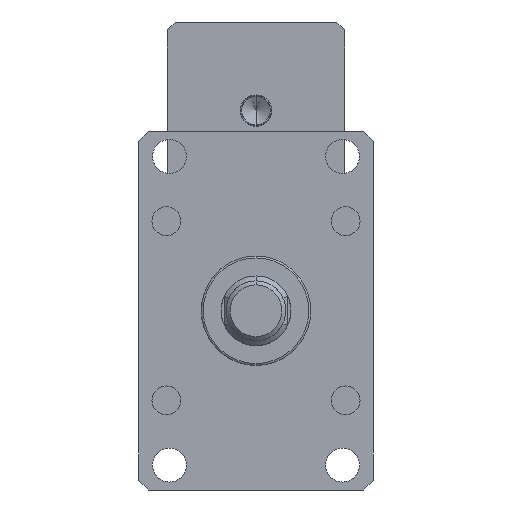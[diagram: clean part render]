
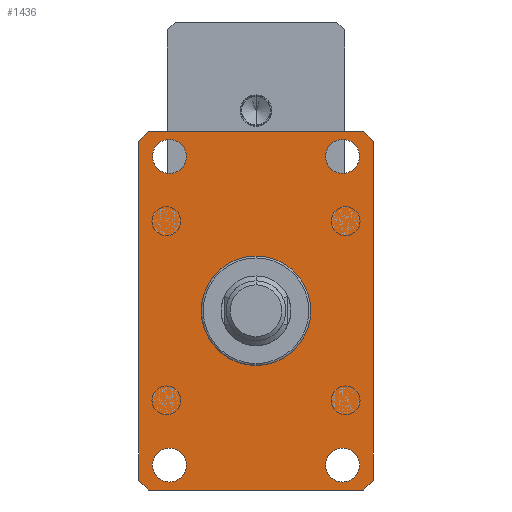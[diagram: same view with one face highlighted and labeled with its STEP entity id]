
A CAD part, front view. The second image highlights one B-rep face of the part: STEP entity #1436.
In plain terms, the highlighted planar face has unit normal (0, -1, 0).
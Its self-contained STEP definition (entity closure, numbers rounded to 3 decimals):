
#88 = ORIENTED_EDGE ( 'NONE', *, *, #3597, .T. ) ;
#163 = DIRECTION ( 'NONE',  ( 0., 0., -1. ) ) ;
#231 = ORIENTED_EDGE ( 'NONE', *, *, #11035, .T. ) ;
#253 = VERTEX_POINT ( 'NONE', #2190 ) ;
#291 = VERTEX_POINT ( 'NONE', #467 ) ;
#299 = DIRECTION ( 'NONE',  ( 0., 0., 1. ) ) ;
#450 = EDGE_CURVE ( 'NONE', #6339, #1347, #3240, .T. ) ;
#467 = CARTESIAN_POINT ( 'NONE',  ( -54., -55., 90. ) ) ;
#547 = VERTEX_POINT ( 'NONE', #4670 ) ;
#963 = EDGE_CURVE ( 'NONE', #7850, #12514, #2601, .T. ) ;
#1062 = ORIENTED_EDGE ( 'NONE', *, *, #11374, .F. ) ;
#1152 = VERTEX_POINT ( 'NONE', #2184 ) ;
#1244 = EDGE_CURVE ( 'NONE', #11001, #11642, #11638, .T. ) ;
#1309 = ORIENTED_EDGE ( 'NONE', *, *, #9554, .T. ) ;
#1347 = VERTEX_POINT ( 'NONE', #12564 ) ;
#1436 = ADVANCED_FACE ( 'NONE', ( #2259, #5228, #7796, #12397, #9767 ), #8162, .F. ) ;
#1441 = EDGE_CURVE ( 'NONE', #9398, #8172, #12086, .T. ) ;
#1711 = AXIS2_PLACEMENT_3D ( 'NONE', #5298, #12116, #6243 ) ;
#1870 = CARTESIAN_POINT ( 'NONE',  ( 43.5, -55., 69. ) ) ;
#1936 = AXIS2_PLACEMENT_3D ( 'NONE', #11147, #5334, #12155 ) ;
#1957 = CARTESIAN_POINT ( 'NONE',  ( -59., -55., 85. ) ) ;
#2022 = CARTESIAN_POINT ( 'NONE',  ( 43.5, -55., -86. ) ) ;
#2075 = EDGE_CURVE ( 'NONE', #10154, #291, #11457, .T. ) ;
#2184 = CARTESIAN_POINT ( 'NONE',  ( -59., -55., 85. ) ) ;
#2190 = CARTESIAN_POINT ( 'NONE',  ( 43.5, -55., 86. ) ) ;
#2259 = FACE_BOUND ( 'NONE', #2907, .T. ) ;
#2282 = CARTESIAN_POINT ( 'NONE',  ( 59., -55., -90. ) ) ;
#2303 = CARTESIAN_POINT ( 'NONE',  ( 59., -55., 85. ) ) ;
#2342 = ORIENTED_EDGE ( 'NONE', *, *, #1244, .T. ) ;
#2601 = CIRCLE ( 'NONE', #10473, 8.5 ) ;
#2619 = DIRECTION ( 'NONE',  ( 1., 0., 0. ) ) ;
#2706 = EDGE_CURVE ( 'NONE', #5004, #7093, #6702, .T. ) ;
#2907 = EDGE_LOOP ( 'NONE', ( #1062, #3637 ) ) ;
#2946 = CARTESIAN_POINT ( 'NONE',  ( 54., -55., 90. ) ) ;
#2948 = DIRECTION ( 'NONE',  ( 0., 0., -1. ) ) ;
#3010 = AXIS2_PLACEMENT_3D ( 'NONE', #10078, #4259, #11063 ) ;
#3025 = CARTESIAN_POINT ( 'NONE',  ( 43.5, -55., 77.5 ) ) ;
#3192 = DIRECTION ( 'NONE',  ( 0.707, 0., 0.707 ) ) ;
#3240 = CIRCLE ( 'NONE', #10963, 8.5 ) ;
#3284 = EDGE_LOOP ( 'NONE', ( #2342, #11495, #9940, #12376, #9163, #231, #7406, #88 ) ) ;
#3353 = ORIENTED_EDGE ( 'NONE', *, *, #11828, .F. ) ;
#3589 = CARTESIAN_POINT ( 'NONE',  ( -54., -55., -90. ) ) ;
#3597 = EDGE_CURVE ( 'NONE', #547, #11001, #8352, .T. ) ;
#3637 = ORIENTED_EDGE ( 'NONE', *, *, #963, .F. ) ;
#3724 = EDGE_CURVE ( 'NONE', #8172, #10154, #9114, .T. ) ;
#3904 = CIRCLE ( 'NONE', #10662, 8.5 ) ;
#4056 = DIRECTION ( 'NONE',  ( 0., 0., -1. ) ) ;
#4132 = CARTESIAN_POINT ( 'NONE',  ( 43.5, -55., 77.5 ) ) ;
#4259 = DIRECTION ( 'NONE',  ( 0., -1., 0. ) ) ;
#4308 = DIRECTION ( 'NONE',  ( 0., 0., 1. ) ) ;
#4417 = DIRECTION ( 'NONE',  ( 0., 1., 0. ) ) ;
#4560 = ORIENTED_EDGE ( 'NONE', *, *, #450, .T. ) ;
#4628 = VECTOR ( 'NONE', #299, 1000. ) ;
#4659 = EDGE_LOOP ( 'NONE', ( #3353, #6316 ) ) ;
#4670 = CARTESIAN_POINT ( 'NONE',  ( -59., -55., -85. ) ) ;
#4894 = VERTEX_POINT ( 'NONE', #1870 ) ;
#4934 = EDGE_CURVE ( 'NONE', #4894, #253, #7234, .T. ) ;
#4937 = CARTESIAN_POINT ( 'NONE',  ( 54., -55., -90. ) ) ;
#4972 = CIRCLE ( 'NONE', #3010, 8.5 ) ;
#5004 = VERTEX_POINT ( 'NONE', #8947 ) ;
#5112 = DIRECTION ( 'NONE',  ( 0., 0., -1. ) ) ;
#5168 = VECTOR ( 'NONE', #8994, 1000. ) ;
#5228 = FACE_BOUND ( 'NONE', #7733, .T. ) ;
#5298 = CARTESIAN_POINT ( 'NONE',  ( -43.5, -55., -77.5 ) ) ;
#5334 = DIRECTION ( 'NONE',  ( 0., 1., 0. ) ) ;
#5427 = LINE ( 'NONE', #8249, #10290 ) ;
#5522 = CARTESIAN_POINT ( 'NONE',  ( 43.5, -55., -77.5 ) ) ;
#5713 = AXIS2_PLACEMENT_3D ( 'NONE', #3025, #9878, #4056 ) ;
#5986 = CARTESIAN_POINT ( 'NONE',  ( 59., -55., -85. ) ) ;
#6113 = DIRECTION ( 'NONE',  ( 0., -1., 0. ) ) ;
#6239 = CARTESIAN_POINT ( 'NONE',  ( 59., -55., 85. ) ) ;
#6243 = DIRECTION ( 'NONE',  ( 0., 0., 1. ) ) ;
#6244 = DIRECTION ( 'NONE',  ( -0.707, 0., 0.707 ) ) ;
#6316 = ORIENTED_EDGE ( 'NONE', *, *, #4934, .F. ) ;
#6339 = VERTEX_POINT ( 'NONE', #2022 ) ;
#6490 = DIRECTION ( 'NONE',  ( 0., 0., 1. ) ) ;
#6518 = VECTOR ( 'NONE', #6244, 1000. ) ;
#6702 = CIRCLE ( 'NONE', #1936, 8.5 ) ;
#7093 = VERTEX_POINT ( 'NONE', #12023 ) ;
#7141 = AXIS2_PLACEMENT_3D ( 'NONE', #4132, #10947, #5112 ) ;
#7234 = CIRCLE ( 'NONE', #5713, 8.5 ) ;
#7252 = ORIENTED_EDGE ( 'NONE', *, *, #9974, .T. ) ;
#7390 = VECTOR ( 'NONE', #2948, 1000. ) ;
#7406 = ORIENTED_EDGE ( 'NONE', *, *, #11699, .T. ) ;
#7548 = VECTOR ( 'NONE', #3192, 1000. ) ;
#7689 = LINE ( 'NONE', #1957, #7390 ) ;
#7733 = EDGE_LOOP ( 'NONE', ( #7252, #4560 ) ) ;
#7796 = FACE_BOUND ( 'NONE', #11966, .T. ) ;
#7850 = VERTEX_POINT ( 'NONE', #10456 ) ;
#7997 = CARTESIAN_POINT ( 'NONE',  ( -59., -55., -85. ) ) ;
#8162 = PLANE ( 'NONE',  #8679 ) ;
#8171 = CARTESIAN_POINT ( 'NONE',  ( -54., -55., -90. ) ) ;
#8172 = VERTEX_POINT ( 'NONE', #2303 ) ;
#8219 = CARTESIAN_POINT ( 'NONE',  ( -54., -55., 90. ) ) ;
#8249 = CARTESIAN_POINT ( 'NONE',  ( -59., -55., 85. ) ) ;
#8352 = LINE ( 'NONE', #7997, #5168 ) ;
#8546 = VECTOR ( 'NONE', #9206, 1000. ) ;
#8679 = AXIS2_PLACEMENT_3D ( 'NONE', #2282, #10127, #4308 ) ;
#8947 = CARTESIAN_POINT ( 'NONE',  ( -43.5, -55., -69. ) ) ;
#8994 = DIRECTION ( 'NONE',  ( 0.707, 0., -0.707 ) ) ;
#9032 = VECTOR ( 'NONE', #2619, 1000. ) ;
#9055 = CIRCLE ( 'NONE', #7141, 8.5 ) ;
#9114 = LINE ( 'NONE', #10136, #6518 ) ;
#9163 = ORIENTED_EDGE ( 'NONE', *, *, #2075, .T. ) ;
#9206 = DIRECTION ( 'NONE',  ( -1., 0., 0. ) ) ;
#9237 = DIRECTION ( 'NONE',  ( -0.707, 0., -0.707 ) ) ;
#9398 = VERTEX_POINT ( 'NONE', #5986 ) ;
#9554 = EDGE_CURVE ( 'NONE', #7093, #5004, #10172, .T. ) ;
#9767 = FACE_BOUND ( 'NONE', #4659, .T. ) ;
#9878 = DIRECTION ( 'NONE',  ( 0., -1., 0. ) ) ;
#9940 = ORIENTED_EDGE ( 'NONE', *, *, #1441, .T. ) ;
#9974 = EDGE_CURVE ( 'NONE', #1347, #6339, #3904, .T. ) ;
#10035 = CARTESIAN_POINT ( 'NONE',  ( 54., -55., -90. ) ) ;
#10078 = CARTESIAN_POINT ( 'NONE',  ( -43.5, -55., 77.5 ) ) ;
#10127 = DIRECTION ( 'NONE',  ( 0., 1., 0. ) ) ;
#10136 = CARTESIAN_POINT ( 'NONE',  ( 54., -55., 90. ) ) ;
#10154 = VERTEX_POINT ( 'NONE', #2946 ) ;
#10172 = CIRCLE ( 'NONE', #1711, 8.5 ) ;
#10229 = CARTESIAN_POINT ( 'NONE',  ( 43.5, -55., -77.5 ) ) ;
#10290 = VECTOR ( 'NONE', #9237, 1000. ) ;
#10385 = ORIENTED_EDGE ( 'NONE', *, *, #2706, .T. ) ;
#10456 = CARTESIAN_POINT ( 'NONE',  ( -43.5, -55., 69. ) ) ;
#10473 = AXIS2_PLACEMENT_3D ( 'NONE', #11985, #6113, #163 ) ;
#10662 = AXIS2_PLACEMENT_3D ( 'NONE', #5522, #12356, #6490 ) ;
#10947 = DIRECTION ( 'NONE',  ( 0., -1., 0. ) ) ;
#10963 = AXIS2_PLACEMENT_3D ( 'NONE', #10229, #4417, #11211 ) ;
#11001 = VERTEX_POINT ( 'NONE', #8171 ) ;
#11035 = EDGE_CURVE ( 'NONE', #291, #1152, #5427, .T. ) ;
#11063 = DIRECTION ( 'NONE',  ( 0., 0., -1. ) ) ;
#11147 = CARTESIAN_POINT ( 'NONE',  ( -43.5, -55., -77.5 ) ) ;
#11211 = DIRECTION ( 'NONE',  ( 0., 0., 1. ) ) ;
#11279 = CARTESIAN_POINT ( 'NONE',  ( -43.5, -55., 86. ) ) ;
#11361 = EDGE_CURVE ( 'NONE', #11642, #9398, #12740, .T. ) ;
#11374 = EDGE_CURVE ( 'NONE', #12514, #7850, #4972, .T. ) ;
#11457 = LINE ( 'NONE', #8219, #8546 ) ;
#11495 = ORIENTED_EDGE ( 'NONE', *, *, #11361, .T. ) ;
#11638 = LINE ( 'NONE', #3589, #9032 ) ;
#11642 = VERTEX_POINT ( 'NONE', #4937 ) ;
#11699 = EDGE_CURVE ( 'NONE', #1152, #547, #7689, .T. ) ;
#11828 = EDGE_CURVE ( 'NONE', #253, #4894, #9055, .T. ) ;
#11966 = EDGE_LOOP ( 'NONE', ( #10385, #1309 ) ) ;
#11985 = CARTESIAN_POINT ( 'NONE',  ( -43.5, -55., 77.5 ) ) ;
#12023 = CARTESIAN_POINT ( 'NONE',  ( -43.5, -55., -86. ) ) ;
#12086 = LINE ( 'NONE', #6239, #4628 ) ;
#12116 = DIRECTION ( 'NONE',  ( 0., 1., 0. ) ) ;
#12155 = DIRECTION ( 'NONE',  ( 0., 0., 1. ) ) ;
#12356 = DIRECTION ( 'NONE',  ( 0., 1., 0. ) ) ;
#12376 = ORIENTED_EDGE ( 'NONE', *, *, #3724, .T. ) ;
#12397 = FACE_OUTER_BOUND ( 'NONE', #3284, .T. ) ;
#12514 = VERTEX_POINT ( 'NONE', #11279 ) ;
#12564 = CARTESIAN_POINT ( 'NONE',  ( 43.5, -55., -69. ) ) ;
#12740 = LINE ( 'NONE', #10035, #7548 ) ;
